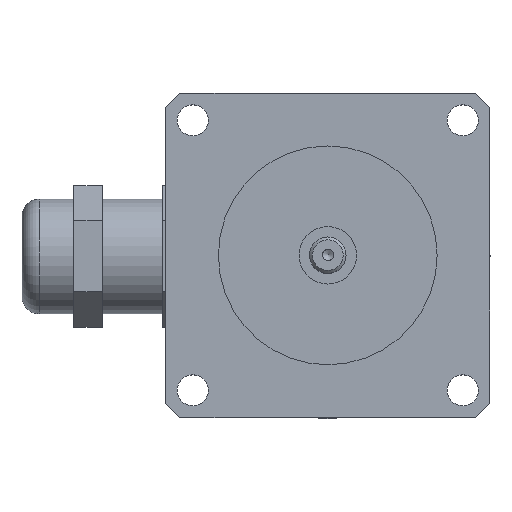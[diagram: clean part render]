
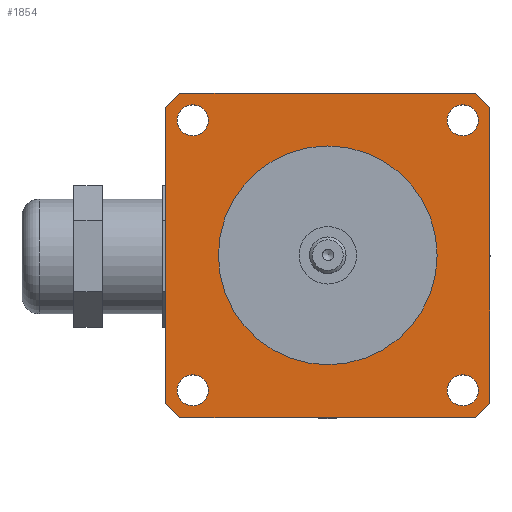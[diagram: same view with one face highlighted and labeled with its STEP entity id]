
A CAD part, top view. The second image highlights one B-rep face of the part: STEP entity #1854.
In plain terms, the highlighted planar face has unit normal (0, 0, 1).
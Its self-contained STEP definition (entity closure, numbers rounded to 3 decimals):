
#1486=CARTESIAN_POINT('',(19.05,0.,42.7));
#1487=VERTEX_POINT('',#1486);
#1488=CARTESIAN_POINT('',(0.,0.,42.7));
#1489=DIRECTION('',(0.0,0.0,-1.0));
#1490=DIRECTION('',(-1.0,0.0,0.0));
#1491=AXIS2_PLACEMENT_3D('',#1488,#1489,#1490);
#1492=CIRCLE('',#1491,19.05);
#1493=EDGE_CURVE('',#1487,#1487,#1492,.T.);
#1536=CARTESIAN_POINT('',(26.211,23.511,42.7));
#1537=VERTEX_POINT('',#1536);
#1538=CARTESIAN_POINT('',(23.511,23.511,42.7));
#1539=DIRECTION('',(0.0,0.0,-1.0));
#1540=DIRECTION('',(-1.0,0.0,0.0));
#1541=AXIS2_PLACEMENT_3D('',#1538,#1539,#1540);
#1542=CIRCLE('',#1541,2.7);
#1543=EDGE_CURVE('',#1537,#1537,#1542,.T.);
#1556=CARTESIAN_POINT('',(26.211,-23.511,42.7));
#1557=VERTEX_POINT('',#1556);
#1558=CARTESIAN_POINT('',(23.511,-23.511,42.7));
#1559=DIRECTION('',(0.0,0.0,-1.0));
#1560=DIRECTION('',(-1.0,0.0,0.0));
#1561=AXIS2_PLACEMENT_3D('',#1558,#1559,#1560);
#1562=CIRCLE('',#1561,2.7);
#1563=EDGE_CURVE('',#1557,#1557,#1562,.T.);
#1576=CARTESIAN_POINT('',(-20.811,23.511,42.7));
#1577=VERTEX_POINT('',#1576);
#1578=CARTESIAN_POINT('',(-23.511,23.511,42.7));
#1579=DIRECTION('',(0.0,0.0,-1.0));
#1580=DIRECTION('',(-1.0,0.0,0.0));
#1581=AXIS2_PLACEMENT_3D('',#1578,#1579,#1580);
#1582=CIRCLE('',#1581,2.7);
#1583=EDGE_CURVE('',#1577,#1577,#1582,.T.);
#1596=CARTESIAN_POINT('',(-20.811,-23.511,42.7));
#1597=VERTEX_POINT('',#1596);
#1598=CARTESIAN_POINT('',(-23.511,-23.511,42.7));
#1599=DIRECTION('',(0.0,0.0,-1.0));
#1600=DIRECTION('',(-1.0,0.0,0.0));
#1601=AXIS2_PLACEMENT_3D('',#1598,#1599,#1600);
#1602=CIRCLE('',#1601,2.7);
#1603=EDGE_CURVE('',#1597,#1597,#1602,.T.);
#1616=CARTESIAN_POINT('',(25.75,28.25,42.7));
#1617=VERTEX_POINT('',#1616);
#1618=CARTESIAN_POINT('',(28.25,25.75,42.7));
#1619=VERTEX_POINT('',#1618);
#1620=CARTESIAN_POINT('',(25.75,28.25,42.7));
#1621=DIRECTION('',(0.707,-0.707,0.0));
#1622=VECTOR('',#1621,3.536);
#1623=LINE('',#1620,#1622);
#1624=EDGE_CURVE('',#1617,#1619,#1623,.T.);
#1647=CARTESIAN_POINT('',(28.25,-25.75,42.7));
#1648=VERTEX_POINT('',#1647);
#1649=CARTESIAN_POINT('',(28.25,25.75,42.7));
#1650=DIRECTION('',(0.0,-1.0,0.0));
#1651=VECTOR('',#1650,51.5);
#1652=LINE('',#1649,#1651);
#1653=EDGE_CURVE('',#1619,#1648,#1652,.T.);
#1674=CARTESIAN_POINT('',(25.75,-28.25,42.7));
#1675=VERTEX_POINT('',#1674);
#1676=CARTESIAN_POINT('',(28.25,-25.75,42.7));
#1677=DIRECTION('',(-0.707,-0.707,0.0));
#1678=VECTOR('',#1677,3.536);
#1679=LINE('',#1676,#1678);
#1680=EDGE_CURVE('',#1648,#1675,#1679,.T.);
#1698=CARTESIAN_POINT('',(-25.75,-28.25,42.7));
#1699=VERTEX_POINT('',#1698);
#1700=CARTESIAN_POINT('',(25.75,-28.25,42.7));
#1701=DIRECTION('',(-1.0,0.0,0.0));
#1702=VECTOR('',#1701,51.5);
#1703=LINE('',#1700,#1702);
#1704=EDGE_CURVE('',#1675,#1699,#1703,.T.);
#1724=CARTESIAN_POINT('',(-28.25,-25.75,42.7));
#1725=VERTEX_POINT('',#1724);
#1726=CARTESIAN_POINT('',(-25.75,-28.25,42.7));
#1727=DIRECTION('',(-0.707,0.707,0.0));
#1728=VECTOR('',#1727,3.536);
#1729=LINE('',#1726,#1728);
#1730=EDGE_CURVE('',#1699,#1725,#1729,.T.);
#1748=CARTESIAN_POINT('',(-28.25,25.75,42.7));
#1749=VERTEX_POINT('',#1748);
#1750=CARTESIAN_POINT('',(-28.25,-25.75,42.7));
#1751=DIRECTION('',(0.0,1.0,0.0));
#1752=VECTOR('',#1751,51.5);
#1753=LINE('',#1750,#1752);
#1754=EDGE_CURVE('',#1725,#1749,#1753,.T.);
#1774=CARTESIAN_POINT('',(-25.75,28.25,42.7));
#1775=VERTEX_POINT('',#1774);
#1776=CARTESIAN_POINT('',(-28.25,25.75,42.7));
#1777=DIRECTION('',(0.707,0.707,0.0));
#1778=VECTOR('',#1777,3.536);
#1779=LINE('',#1776,#1778);
#1780=EDGE_CURVE('',#1749,#1775,#1779,.T.);
#1798=CARTESIAN_POINT('',(-25.75,28.25,42.7));
#1799=DIRECTION('',(1.0,0.0,0.0));
#1800=VECTOR('',#1799,51.5);
#1801=LINE('',#1798,#1800);
#1802=EDGE_CURVE('',#1775,#1617,#1801,.T.);
#1824=CARTESIAN_POINT('',(0.,0.,42.7));
#1825=DIRECTION('',(0.0,0.0,1.0));
#1826=DIRECTION('',(1.0,0.0,0.0));
#1827=AXIS2_PLACEMENT_3D('',#1824,#1825,#1826);
#1828=PLANE('',#1827);
#1829=ORIENTED_EDGE('',*,*,#1624,.F.);
#1830=ORIENTED_EDGE('',*,*,#1802,.F.);
#1831=ORIENTED_EDGE('',*,*,#1780,.F.);
#1832=ORIENTED_EDGE('',*,*,#1754,.F.);
#1833=ORIENTED_EDGE('',*,*,#1730,.F.);
#1834=ORIENTED_EDGE('',*,*,#1704,.F.);
#1835=ORIENTED_EDGE('',*,*,#1680,.F.);
#1836=ORIENTED_EDGE('',*,*,#1653,.F.);
#1837=EDGE_LOOP('',(#1829,#1830,#1831,#1832,#1833,#1834,#1835,#1836));
#1838=FACE_OUTER_BOUND('',#1837,.T.);
#1839=ORIENTED_EDGE('',*,*,#1493,.T.);
#1840=EDGE_LOOP('',(#1839));
#1841=FACE_BOUND('',#1840,.T.);
#1842=ORIENTED_EDGE('',*,*,#1543,.T.);
#1843=EDGE_LOOP('',(#1842));
#1844=FACE_BOUND('',#1843,.T.);
#1845=ORIENTED_EDGE('',*,*,#1563,.T.);
#1846=EDGE_LOOP('',(#1845));
#1847=FACE_BOUND('',#1846,.T.);
#1848=ORIENTED_EDGE('',*,*,#1583,.T.);
#1849=EDGE_LOOP('',(#1848));
#1850=FACE_BOUND('',#1849,.T.);
#1851=ORIENTED_EDGE('',*,*,#1603,.T.);
#1852=EDGE_LOOP('',(#1851));
#1853=FACE_BOUND('',#1852,.T.);
#1854=ADVANCED_FACE('',(#1838,#1841,#1844,#1847,#1850,#1853),#1828,.T.);
